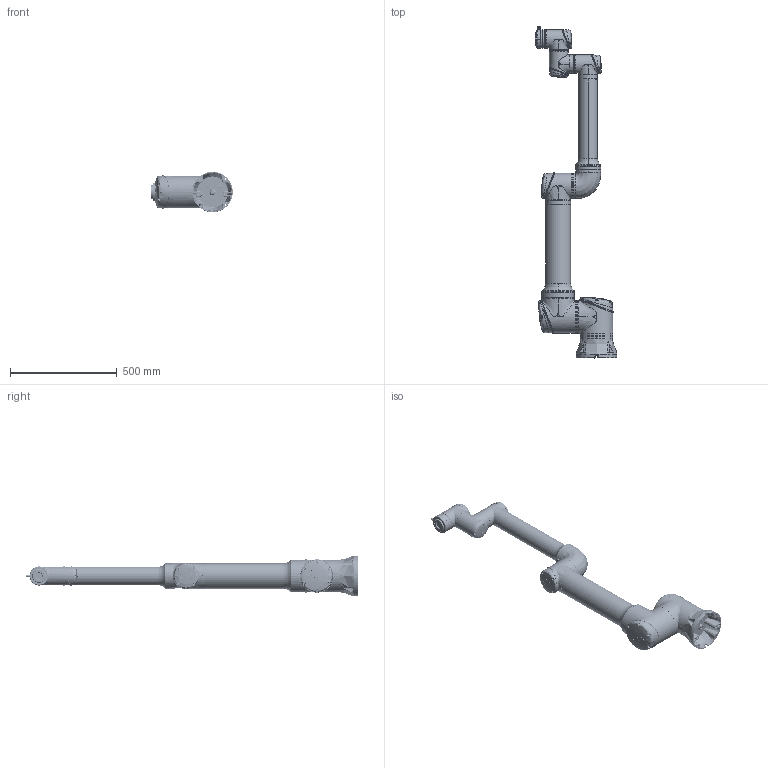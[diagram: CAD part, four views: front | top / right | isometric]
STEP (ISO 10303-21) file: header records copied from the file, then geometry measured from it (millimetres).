
FILE_DESCRIPTION (( 'STEP AP214' ), '1' );
FILE_NAME ('CS612-Ex迍雄耀倰.STEP', '2023-10-09T02:03:00', ( '' ), ( '' ), 'SwSTEP 2.0', 'SolidWorks 2017', '' );
FILE_SCHEMA (( 'AUTOMOTIVE_DESIGN' ));
Length unit declared in the file: millimetre
Products named in the file (11): CS612-Ex-J6; CS612-Ex-Link2A_Link2B_J4; CS612-Ex-J1; CS612-Ex-Flange; CS612-Ex迍雄耀倰; CS17蟀裝踢扽遠; CS32蟀裝踢扽遠; CS612-Ex-J2_Link1_J3; CS612-Ex-J5; CS25蟀裝踢扽遠; CS612-Ex-Base
Assembly tree (15 placements, depth 2):
  CS612-Ex迍雄耀倰
    CS612-Ex-J1
    CS612-Ex-J2_Link1_J3
    CS612-Ex-Link2A_Link2B_J4
    CS612-Ex-J5
    CS612-Ex-J6
    CS612-Ex-Base
    CS612-Ex-Flange
    CS32蟀裝踢扽遠  x2
    CS25蟀裝踢扽遠  x4
    CS17蟀裝踢扽遠  x2
Bounding box: 382.54 x 1558.1 x 189.51 mm (x, y, z)
Volume: 22343391.8 mm3; surface area: 1433674.4 mm2
Topology: 94 solids, 121 shells, 6552 faces, 16299 edges, 9846 vertices
Faces by surface type: bspline 2148, plane 1848, cylinder 1356, cone 698, torus 309, sphere 193
Entity records: 530281 total; most frequent: CARTESIAN_POINT 358150, ORIENTED_EDGE 30208, DIRECTION 21028, EDGE_CURVE 15104, VERTEX_POINT 9257, AXIS2_PLACEMENT_3D 8652, EDGE_LOOP 6497, ADVANCED_FACE 6199
